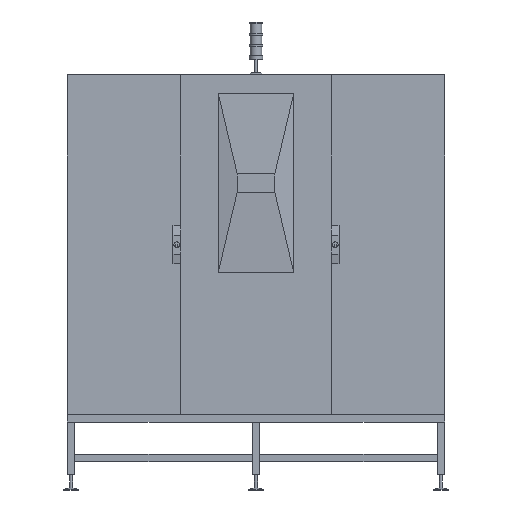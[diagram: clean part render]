
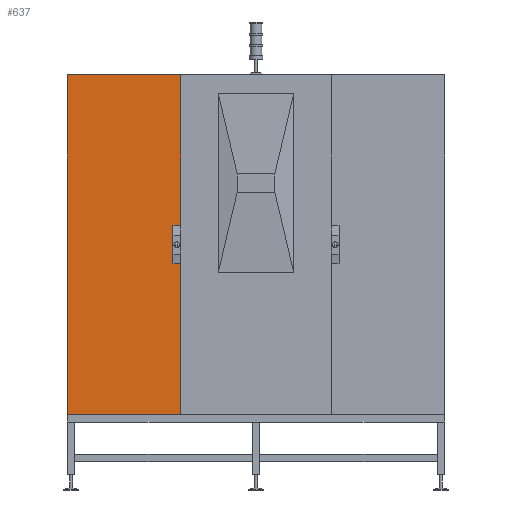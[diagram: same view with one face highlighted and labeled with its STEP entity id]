
A CAD part, front view. The second image highlights one B-rep face of the part: STEP entity #637.
In plain terms, the highlighted planar face has unit normal (0, -1, 0).
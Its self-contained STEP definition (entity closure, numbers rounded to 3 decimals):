
#421 = EDGE_CURVE('',#422,#424,#426,.T.);
#422 = VERTEX_POINT('',#423);
#423 = CARTESIAN_POINT('',(0.,0.,0.));
#424 = VERTEX_POINT('',#425);
#425 = CARTESIAN_POINT('',(0.,0.,1800.));
#426 = SURFACE_CURVE('',#427,(#431,#443),.PCURVE_S1.);
#427 = LINE('',#428,#429);
#428 = CARTESIAN_POINT('',(0.,0.,0.));
#429 = VECTOR('',#430,1.);
#430 = DIRECTION('',(0.,0.,1.));
#431 = PCURVE('',#432,#437);
#432 = PLANE('',#433);
#433 = AXIS2_PLACEMENT_3D('',#434,#435,#436);
#434 = CARTESIAN_POINT('',(0.,0.,0.));
#435 = DIRECTION('',(1.,0.,-0.));
#436 = DIRECTION('',(0.,0.,1.));
#437 = DEFINITIONAL_REPRESENTATION('',(#438),#442);
#438 = LINE('',#439,#440);
#439 = CARTESIAN_POINT('',(0.,0.));
#440 = VECTOR('',#441,1.);
#441 = DIRECTION('',(1.,0.));
#442 = ( GEOMETRIC_REPRESENTATION_CONTEXT(2) 
PARAMETRIC_REPRESENTATION_CONTEXT() REPRESENTATION_CONTEXT('2D SPACE',''
  ) );
#443 = PCURVE('',#444,#449);
#444 = PLANE('',#445);
#445 = AXIS2_PLACEMENT_3D('',#446,#447,#448);
#446 = CARTESIAN_POINT('',(0.,0.,0.));
#447 = DIRECTION('',(-0.,1.,0.));
#448 = DIRECTION('',(0.,0.,1.));
#449 = DEFINITIONAL_REPRESENTATION('',(#450),#454);
#450 = LINE('',#451,#452);
#451 = CARTESIAN_POINT('',(0.,0.));
#452 = VECTOR('',#453,1.);
#453 = DIRECTION('',(1.,0.));
#454 = ( GEOMETRIC_REPRESENTATION_CONTEXT(2) 
PARAMETRIC_REPRESENTATION_CONTEXT() REPRESENTATION_CONTEXT('2D SPACE',''
  ) );
#472 = PLANE('',#473);
#473 = AXIS2_PLACEMENT_3D('',#474,#475,#476);
#474 = CARTESIAN_POINT('',(0.,0.,0.));
#475 = DIRECTION('',(0.,0.,1.));
#476 = DIRECTION('',(1.,0.,-0.));
#526 = PLANE('',#527);
#527 = AXIS2_PLACEMENT_3D('',#528,#529,#530);
#528 = CARTESIAN_POINT('',(0.,0.,1800.));
#529 = DIRECTION('',(0.,0.,1.));
#530 = DIRECTION('',(1.,0.,-0.));
#541 = EDGE_CURVE('',#542,#544,#546,.T.);
#542 = VERTEX_POINT('',#543);
#543 = CARTESIAN_POINT('',(600.,0.,0.));
#544 = VERTEX_POINT('',#545);
#545 = CARTESIAN_POINT('',(600.,0.,1800.));
#546 = SURFACE_CURVE('',#547,(#551,#563),.PCURVE_S1.);
#547 = LINE('',#548,#549);
#548 = CARTESIAN_POINT('',(600.,0.,0.));
#549 = VECTOR('',#550,1.);
#550 = DIRECTION('',(0.,0.,1.));
#551 = PCURVE('',#552,#557);
#552 = PLANE('',#553);
#553 = AXIS2_PLACEMENT_3D('',#554,#555,#556);
#554 = CARTESIAN_POINT('',(600.,0.,0.));
#555 = DIRECTION('',(1.,0.,-0.));
#556 = DIRECTION('',(0.,0.,1.));
#557 = DEFINITIONAL_REPRESENTATION('',(#558),#562);
#558 = LINE('',#559,#560);
#559 = CARTESIAN_POINT('',(0.,0.));
#560 = VECTOR('',#561,1.);
#561 = DIRECTION('',(1.,0.));
#562 = ( GEOMETRIC_REPRESENTATION_CONTEXT(2) 
PARAMETRIC_REPRESENTATION_CONTEXT() REPRESENTATION_CONTEXT('2D SPACE',''
  ) );
#563 = PCURVE('',#444,#564);
#564 = DEFINITIONAL_REPRESENTATION('',(#565),#569);
#565 = LINE('',#566,#567);
#566 = CARTESIAN_POINT('',(0.,600.));
#567 = VECTOR('',#568,1.);
#568 = DIRECTION('',(1.,0.));
#569 = ( GEOMETRIC_REPRESENTATION_CONTEXT(2) 
PARAMETRIC_REPRESENTATION_CONTEXT() REPRESENTATION_CONTEXT('2D SPACE',''
  ) );
#637 = ADVANCED_FACE('',(#638),#444,.F.);
#638 = FACE_BOUND('',#639,.F.);
#639 = EDGE_LOOP('',(#640,#661,#662,#683));
#640 = ORIENTED_EDGE('',*,*,#641,.F.);
#641 = EDGE_CURVE('',#422,#542,#642,.T.);
#642 = SURFACE_CURVE('',#643,(#647,#654),.PCURVE_S1.);
#643 = LINE('',#644,#645);
#644 = CARTESIAN_POINT('',(0.,0.,0.));
#645 = VECTOR('',#646,1.);
#646 = DIRECTION('',(1.,0.,-0.));
#647 = PCURVE('',#444,#648);
#648 = DEFINITIONAL_REPRESENTATION('',(#649),#653);
#649 = LINE('',#650,#651);
#650 = CARTESIAN_POINT('',(0.,0.));
#651 = VECTOR('',#652,1.);
#652 = DIRECTION('',(0.,1.));
#653 = ( GEOMETRIC_REPRESENTATION_CONTEXT(2) 
PARAMETRIC_REPRESENTATION_CONTEXT() REPRESENTATION_CONTEXT('2D SPACE',''
  ) );
#654 = PCURVE('',#472,#655);
#655 = DEFINITIONAL_REPRESENTATION('',(#656),#660);
#656 = LINE('',#657,#658);
#657 = CARTESIAN_POINT('',(0.,0.));
#658 = VECTOR('',#659,1.);
#659 = DIRECTION('',(1.,0.));
#660 = ( GEOMETRIC_REPRESENTATION_CONTEXT(2) 
PARAMETRIC_REPRESENTATION_CONTEXT() REPRESENTATION_CONTEXT('2D SPACE',''
  ) );
#661 = ORIENTED_EDGE('',*,*,#421,.T.);
#662 = ORIENTED_EDGE('',*,*,#663,.T.);
#663 = EDGE_CURVE('',#424,#544,#664,.T.);
#664 = SURFACE_CURVE('',#665,(#669,#676),.PCURVE_S1.);
#665 = LINE('',#666,#667);
#666 = CARTESIAN_POINT('',(0.,0.,1800.));
#667 = VECTOR('',#668,1.);
#668 = DIRECTION('',(1.,0.,-0.));
#669 = PCURVE('',#444,#670);
#670 = DEFINITIONAL_REPRESENTATION('',(#671),#675);
#671 = LINE('',#672,#673);
#672 = CARTESIAN_POINT('',(1800.,0.));
#673 = VECTOR('',#674,1.);
#674 = DIRECTION('',(0.,1.));
#675 = ( GEOMETRIC_REPRESENTATION_CONTEXT(2) 
PARAMETRIC_REPRESENTATION_CONTEXT() REPRESENTATION_CONTEXT('2D SPACE',''
  ) );
#676 = PCURVE('',#526,#677);
#677 = DEFINITIONAL_REPRESENTATION('',(#678),#682);
#678 = LINE('',#679,#680);
#679 = CARTESIAN_POINT('',(0.,0.));
#680 = VECTOR('',#681,1.);
#681 = DIRECTION('',(1.,0.));
#682 = ( GEOMETRIC_REPRESENTATION_CONTEXT(2) 
PARAMETRIC_REPRESENTATION_CONTEXT() REPRESENTATION_CONTEXT('2D SPACE',''
  ) );
#683 = ORIENTED_EDGE('',*,*,#541,.F.);
